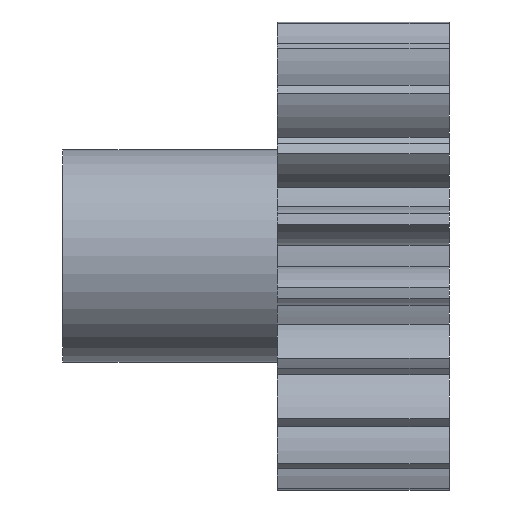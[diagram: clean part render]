
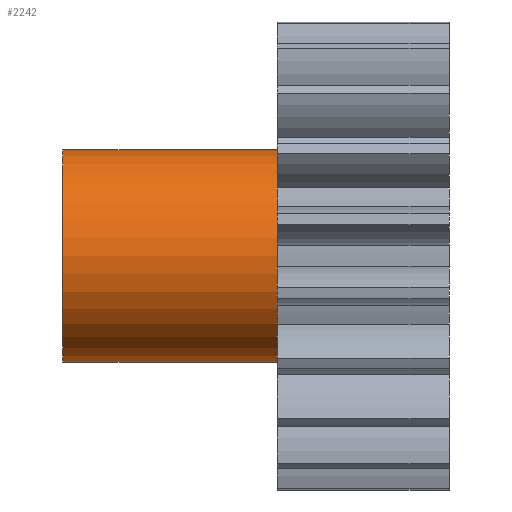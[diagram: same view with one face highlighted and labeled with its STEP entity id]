
A CAD part, front view. The second image highlights one B-rep face of the part: STEP entity #2242.
In plain terms, the highlighted cylindrical face has radius 7.425 mm (diameter 14.85 mm), a partial arc.
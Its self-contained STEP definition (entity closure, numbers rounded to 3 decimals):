
#7 = EDGE_CURVE ( 'NONE', #2939, #748, #230, .T. ) ;
#127 = VECTOR ( 'NONE', #3154, 1000. ) ;
#138 = VECTOR ( 'NONE', #3011, 1000. ) ;
#230 = CIRCLE ( 'NONE', #3116, 7.425 ) ;
#266 = FACE_OUTER_BOUND ( 'NONE', #502, .T. ) ;
#359 = ORIENTED_EDGE ( 'NONE', *, *, #2321, .T. ) ;
#365 = DIRECTION ( 'NONE',  ( -1., 0., 0. ) ) ;
#502 = EDGE_LOOP ( 'NONE', ( #1170, #2241, #359, #2956 ) ) ;
#748 = VERTEX_POINT ( 'NONE', #1494 ) ;
#808 = VERTEX_POINT ( 'NONE', #2014 ) ;
#1025 = CYLINDRICAL_SURFACE ( 'NONE', #2257, 7.425 ) ;
#1091 = EDGE_CURVE ( 'NONE', #748, #1237, #2400, .T. ) ;
#1170 = ORIENTED_EDGE ( 'NONE', *, *, #1091, .F. ) ;
#1200 = CARTESIAN_POINT ( 'NONE',  ( 4., 0., 7.425 ) ) ;
#1237 = VERTEX_POINT ( 'NONE', #1200 ) ;
#1246 = DIRECTION ( 'NONE',  ( 1., 0., 0. ) ) ;
#1290 = CARTESIAN_POINT ( 'NONE',  ( -11., 0., 0. ) ) ;
#1338 = DIRECTION ( 'NONE',  ( 0., 0., -1. ) ) ;
#1417 = EDGE_CURVE ( 'NONE', #808, #1237, #1716, .T. ) ;
#1494 = CARTESIAN_POINT ( 'NONE',  ( -11., 0., 7.425 ) ) ;
#1716 = CIRCLE ( 'NONE', #2538, 7.425 ) ;
#1918 = CARTESIAN_POINT ( 'NONE',  ( -11., 0., 7.425 ) ) ;
#2010 = DIRECTION ( 'NONE',  ( 0., 0., 1. ) ) ;
#2014 = CARTESIAN_POINT ( 'NONE',  ( 4., 0., -7.425 ) ) ;
#2092 = CARTESIAN_POINT ( 'NONE',  ( -11., 0., -7.425 ) ) ;
#2241 = ORIENTED_EDGE ( 'NONE', *, *, #7, .F. ) ;
#2242 = ADVANCED_FACE ( 'NONE', ( #266 ), #1025, .T. ) ;
#2257 = AXIS2_PLACEMENT_3D ( 'NONE', #3168, #1246, #2447 ) ;
#2321 = EDGE_CURVE ( 'NONE', #2939, #808, #2782, .T. ) ;
#2360 = CARTESIAN_POINT ( 'NONE',  ( -11., 0., -7.425 ) ) ;
#2400 = LINE ( 'NONE', #1918, #127 ) ;
#2447 = DIRECTION ( 'NONE',  ( 0., 0., -1. ) ) ;
#2538 = AXIS2_PLACEMENT_3D ( 'NONE', #2573, #365, #1338 ) ;
#2572 = DIRECTION ( 'NONE',  ( -1., 0., 0. ) ) ;
#2573 = CARTESIAN_POINT ( 'NONE',  ( 4., 0., 0. ) ) ;
#2782 = LINE ( 'NONE', #2092, #138 ) ;
#2939 = VERTEX_POINT ( 'NONE', #2360 ) ;
#2956 = ORIENTED_EDGE ( 'NONE', *, *, #1417, .T. ) ;
#3011 = DIRECTION ( 'NONE',  ( 1., 0., 0. ) ) ;
#3116 = AXIS2_PLACEMENT_3D ( 'NONE', #1290, #2572, #2010 ) ;
#3154 = DIRECTION ( 'NONE',  ( 1., 0., 0. ) ) ;
#3168 = CARTESIAN_POINT ( 'NONE',  ( -11., 0., 0. ) ) ;
